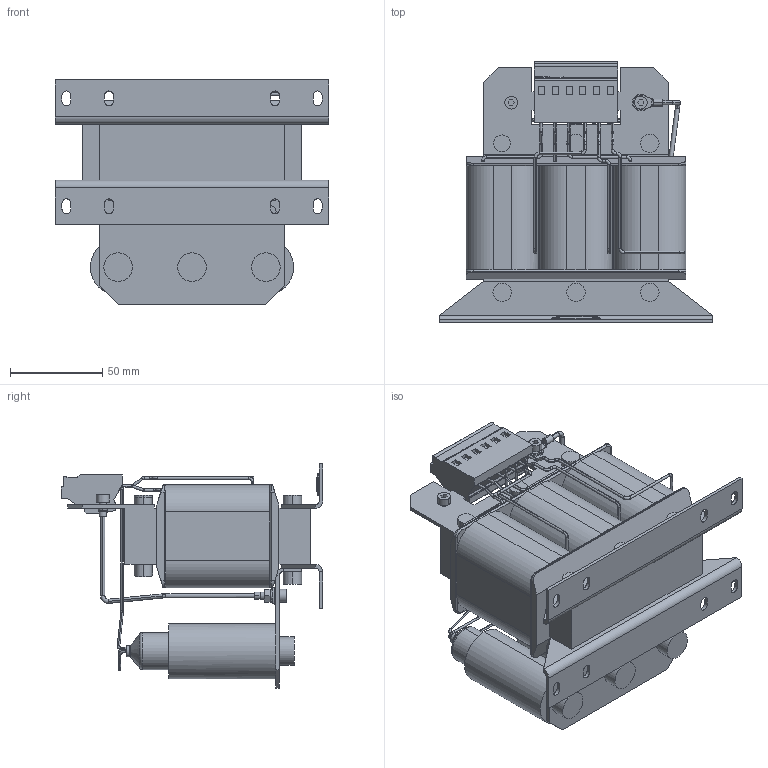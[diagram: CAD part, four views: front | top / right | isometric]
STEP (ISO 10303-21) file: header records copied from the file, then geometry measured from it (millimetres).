
FILE_DESCRIPTION (( 'STEP AP214' ), '1' );
FILE_NAME ('00Z1GX4-0010.STEP', '2023-03-09T09:55:04', ( '' ), ( '' ), 'SwSTEP 2.0', 'SolidWorks 2022', '' );
FILE_SCHEMA (( 'AUTOMOTIVE_DESIGN' ));
Length unit declared in the file: millimetre
Products named in the file (1): 00Z1GX4-0010
Bounding box: 148 x 141.7 x 121.4 mm (x, y, z)
Volume: 719112.3 mm3; surface area: 123924.7 mm2
Topology: 1 solids, 1 shells, 709 faces, 1819 edges, 1147 vertices
Faces by surface type: plane 287, cylinder 268, torus 116, bspline 32, cone 6
Entity records: 23955 total; most frequent: CARTESIAN_POINT 6256, DIRECTION 3749, ORIENTED_EDGE 3638, EDGE_CURVE 1819, AXIS2_PLACEMENT_3D 1454, VERTEX_POINT 1147, LINE 841, VECTOR 841
